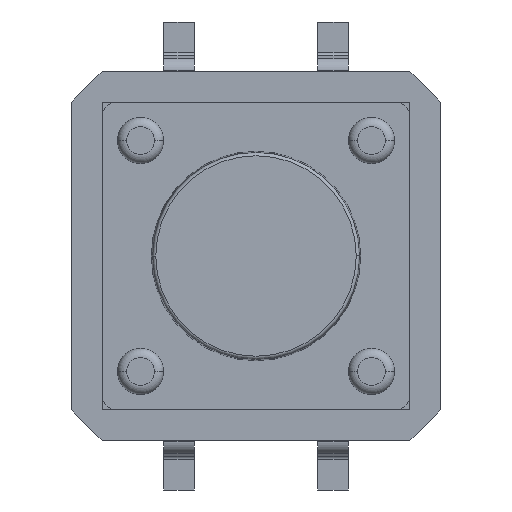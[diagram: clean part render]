
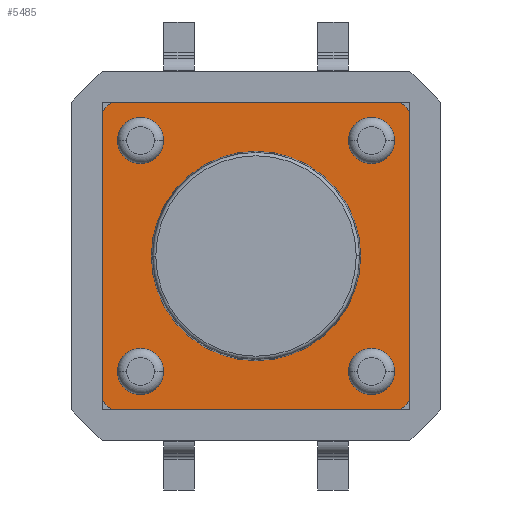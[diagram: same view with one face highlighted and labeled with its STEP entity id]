
A CAD part, front view. The second image highlights one B-rep face of the part: STEP entity #5485.
In plain terms, the highlighted planar face has unit normal (0, -1, 0).
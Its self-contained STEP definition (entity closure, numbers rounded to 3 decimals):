
#5116=CARTESIAN_POINT('',(-3.75,0.,-3.75));
#5117=DIRECTION('',(0.,-1.,0.));
#5118=DIRECTION('',(1.,0.,0.));
#5119=AXIS2_PLACEMENT_3D('',#5116,#5117,#5118);
#5121=CARTESIAN_POINT('',(-3.75,0.,-3.75));
#5122=DIRECTION('',(0.,-1.,0.));
#5123=DIRECTION('',(-1.,0.,0.));
#5124=AXIS2_PLACEMENT_3D('',#5121,#5122,#5123);
#5126=CARTESIAN_POINT('',(3.75,0.,-3.75));
#5127=DIRECTION('',(0.,-1.,0.));
#5128=DIRECTION('',(1.,0.,0.));
#5129=AXIS2_PLACEMENT_3D('',#5126,#5127,#5128);
#5131=CARTESIAN_POINT('',(3.75,0.,-3.75));
#5132=DIRECTION('',(0.,-1.,0.));
#5133=DIRECTION('',(-1.,0.,0.));
#5134=AXIS2_PLACEMENT_3D('',#5131,#5132,#5133);
#5136=CARTESIAN_POINT('',(3.75,0.,3.75));
#5137=DIRECTION('',(0.,-1.,0.));
#5138=DIRECTION('',(1.,0.,0.));
#5139=AXIS2_PLACEMENT_3D('',#5136,#5137,#5138);
#5141=CARTESIAN_POINT('',(3.75,0.,3.75));
#5142=DIRECTION('',(0.,-1.,0.));
#5143=DIRECTION('',(-1.,0.,0.));
#5144=AXIS2_PLACEMENT_3D('',#5141,#5142,#5143);
#5146=CARTESIAN_POINT('',(-3.75,0.,3.75));
#5147=DIRECTION('',(0.,-1.,0.));
#5148=DIRECTION('',(1.,0.,0.));
#5149=AXIS2_PLACEMENT_3D('',#5146,#5147,#5148);
#5151=CARTESIAN_POINT('',(-3.75,0.,3.75));
#5152=DIRECTION('',(0.,-1.,0.));
#5153=DIRECTION('',(-1.,0.,0.));
#5154=AXIS2_PLACEMENT_3D('',#5151,#5152,#5153);
#5156=CARTESIAN_POINT('',(0.,0.,0.));
#5157=DIRECTION('',(0.,-1.,0.));
#5158=DIRECTION('',(1.,0.,0.));
#5159=AXIS2_PLACEMENT_3D('',#5156,#5157,#5158);
#5161=CARTESIAN_POINT('',(0.,0.,0.));
#5162=DIRECTION('',(0.,-1.,0.));
#5163=DIRECTION('',(-1.,0.,0.));
#5164=AXIS2_PLACEMENT_3D('',#5161,#5162,#5163);
#5166=CARTESIAN_POINT('',(-4.5,0.,4.5));
#5167=DIRECTION('',(0.,-1.,0.));
#5168=DIRECTION('',(0.,0.,1.));
#5169=AXIS2_PLACEMENT_3D('',#5166,#5167,#5168);
#5171=DIRECTION('',(1.,0.,0.));
#5172=VECTOR('',#5171,9.);
#5173=CARTESIAN_POINT('',(-4.5,0.,5.));
#5174=LINE('',#5173,#5172);
#5175=CARTESIAN_POINT('',(4.5,0.,4.5));
#5176=DIRECTION('',(0.,-1.,0.));
#5177=DIRECTION('',(1.,0.,0.));
#5178=AXIS2_PLACEMENT_3D('',#5175,#5176,#5177);
#5180=DIRECTION('',(0.,0.,-1.));
#5181=VECTOR('',#5180,9.);
#5182=CARTESIAN_POINT('',(5.,0.,4.5));
#5183=LINE('',#5182,#5181);
#5184=CARTESIAN_POINT('',(4.5,0.,-4.5));
#5185=DIRECTION('',(0.,-1.,0.));
#5186=DIRECTION('',(0.,0.,-1.));
#5187=AXIS2_PLACEMENT_3D('',#5184,#5185,#5186);
#5189=DIRECTION('',(-1.,0.,0.));
#5190=VECTOR('',#5189,9.);
#5191=CARTESIAN_POINT('',(4.5,0.,-5.));
#5192=LINE('',#5191,#5190);
#5193=CARTESIAN_POINT('',(-4.5,0.,-4.5));
#5194=DIRECTION('',(0.,-1.,0.));
#5195=DIRECTION('',(-1.,0.,0.));
#5196=AXIS2_PLACEMENT_3D('',#5193,#5194,#5195);
#5198=DIRECTION('',(0.,0.,1.));
#5199=VECTOR('',#5198,9.);
#5200=CARTESIAN_POINT('',(-5.,0.,-4.5));
#5201=LINE('',#5200,#5199);
#5360=CARTESIAN_POINT('',(-3.5,0.,-3.75));
#5361=CARTESIAN_POINT('',(-4.,0.,-3.75));
#5362=VERTEX_POINT('',#5360);
#5363=VERTEX_POINT('',#5361);
#5364=CARTESIAN_POINT('',(4.,0.,-3.75));
#5365=CARTESIAN_POINT('',(3.5,0.,-3.75));
#5366=VERTEX_POINT('',#5364);
#5367=VERTEX_POINT('',#5365);
#5368=CARTESIAN_POINT('',(4.,0.,3.75));
#5369=CARTESIAN_POINT('',(3.5,0.,3.75));
#5370=VERTEX_POINT('',#5368);
#5371=VERTEX_POINT('',#5369);
#5372=CARTESIAN_POINT('',(-3.5,0.,3.75));
#5373=CARTESIAN_POINT('',(-4.,0.,3.75));
#5374=VERTEX_POINT('',#5372);
#5375=VERTEX_POINT('',#5373);
#5392=CARTESIAN_POINT('',(3.4,0.,0.));
#5393=CARTESIAN_POINT('',(-3.4,0.,0.));
#5394=VERTEX_POINT('',#5392);
#5395=VERTEX_POINT('',#5393);
#5400=CARTESIAN_POINT('',(-4.5,0.,5.));
#5401=CARTESIAN_POINT('',(-5.,0.,4.5));
#5402=VERTEX_POINT('',#5400);
#5403=VERTEX_POINT('',#5401);
#5408=CARTESIAN_POINT('',(5.,0.,4.5));
#5409=CARTESIAN_POINT('',(4.5,0.,5.));
#5410=VERTEX_POINT('',#5408);
#5411=VERTEX_POINT('',#5409);
#5416=CARTESIAN_POINT('',(4.5,0.,-5.));
#5417=CARTESIAN_POINT('',(5.,0.,-4.5));
#5418=VERTEX_POINT('',#5416);
#5419=VERTEX_POINT('',#5417);
#5424=CARTESIAN_POINT('',(-5.,0.,-4.5));
#5425=CARTESIAN_POINT('',(-4.5,0.,-5.));
#5426=VERTEX_POINT('',#5424);
#5427=VERTEX_POINT('',#5425);
#5432=CARTESIAN_POINT('',(0.,0.,0.));
#5433=DIRECTION('',(0.,1.,0.));
#5434=DIRECTION('',(1.,0.,0.));
#5435=AXIS2_PLACEMENT_3D('',#5432,#5433,#5434);
#5436=PLANE('',#5435);
#5438=ORIENTED_EDGE('',*,*,#5437,.F.);
#5440=ORIENTED_EDGE('',*,*,#5439,.T.);
#5442=ORIENTED_EDGE('',*,*,#5441,.F.);
#5444=ORIENTED_EDGE('',*,*,#5443,.T.);
#5446=ORIENTED_EDGE('',*,*,#5445,.F.);
#5448=ORIENTED_EDGE('',*,*,#5447,.T.);
#5450=ORIENTED_EDGE('',*,*,#5449,.F.);
#5452=ORIENTED_EDGE('',*,*,#5451,.T.);
#5453=EDGE_LOOP('',(#5438,#5440,#5442,#5444,#5446,#5448,#5450,#5452));
#5454=FACE_OUTER_BOUND('',#5453,.F.);
#5456=ORIENTED_EDGE('',*,*,#5455,.T.);
#5458=ORIENTED_EDGE('',*,*,#5457,.T.);
#5459=EDGE_LOOP('',(#5456,#5458));
#5460=FACE_BOUND('',#5459,.F.);
#5462=ORIENTED_EDGE('',*,*,#5461,.T.);
#5464=ORIENTED_EDGE('',*,*,#5463,.T.);
#5465=EDGE_LOOP('',(#5462,#5464));
#5466=FACE_BOUND('',#5465,.F.);
#5468=ORIENTED_EDGE('',*,*,#5467,.T.);
#5470=ORIENTED_EDGE('',*,*,#5469,.T.);
#5471=EDGE_LOOP('',(#5468,#5470));
#5472=FACE_BOUND('',#5471,.F.);
#5474=ORIENTED_EDGE('',*,*,#5473,.T.);
#5476=ORIENTED_EDGE('',*,*,#5475,.T.);
#5477=EDGE_LOOP('',(#5474,#5476));
#5478=FACE_BOUND('',#5477,.F.);
#5480=ORIENTED_EDGE('',*,*,#5479,.T.);
#5482=ORIENTED_EDGE('',*,*,#5481,.T.);
#5483=EDGE_LOOP('',(#5480,#5482));
#5484=FACE_BOUND('',#5483,.F.);
#5120=CIRCLE('',#5119,0.25);
#5125=CIRCLE('',#5124,0.25);
#5130=CIRCLE('',#5129,0.25);
#5135=CIRCLE('',#5134,0.25);
#5140=CIRCLE('',#5139,0.25);
#5145=CIRCLE('',#5144,0.25);
#5150=CIRCLE('',#5149,0.25);
#5155=CIRCLE('',#5154,0.25);
#5160=CIRCLE('',#5159,3.4);
#5165=CIRCLE('',#5164,3.4);
#5170=CIRCLE('',#5169,0.5);
#5179=CIRCLE('',#5178,0.5);
#5188=CIRCLE('',#5187,0.5);
#5197=CIRCLE('',#5196,0.5);
#5437=EDGE_CURVE('',#5402,#5403,#5170,.T.);
#5439=EDGE_CURVE('',#5402,#5411,#5174,.T.);
#5441=EDGE_CURVE('',#5410,#5411,#5179,.T.);
#5443=EDGE_CURVE('',#5410,#5419,#5183,.T.);
#5445=EDGE_CURVE('',#5418,#5419,#5188,.T.);
#5447=EDGE_CURVE('',#5418,#5427,#5192,.T.);
#5449=EDGE_CURVE('',#5426,#5427,#5197,.T.);
#5451=EDGE_CURVE('',#5426,#5403,#5201,.T.);
#5455=EDGE_CURVE('',#5366,#5367,#5130,.T.);
#5457=EDGE_CURVE('',#5367,#5366,#5135,.T.);
#5461=EDGE_CURVE('',#5370,#5371,#5140,.T.);
#5463=EDGE_CURVE('',#5371,#5370,#5145,.T.);
#5467=EDGE_CURVE('',#5374,#5375,#5150,.T.);
#5469=EDGE_CURVE('',#5375,#5374,#5155,.T.);
#5473=EDGE_CURVE('',#5394,#5395,#5160,.T.);
#5475=EDGE_CURVE('',#5395,#5394,#5165,.T.);
#5479=EDGE_CURVE('',#5362,#5363,#5120,.T.);
#5481=EDGE_CURVE('',#5363,#5362,#5125,.T.);
#5485=ADVANCED_FACE('',(#5454,#5460,#5466,#5472,#5478,#5484),#5436,.F.);
